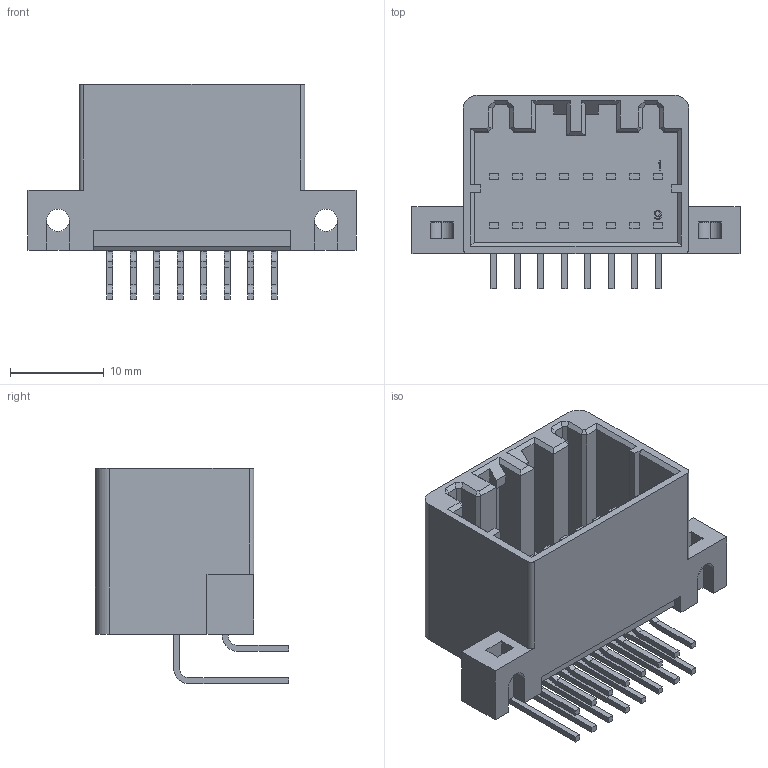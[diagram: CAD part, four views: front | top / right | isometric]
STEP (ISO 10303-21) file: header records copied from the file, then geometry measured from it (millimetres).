
FILE_DESCRIPTION((''),'2;1');
FILE_NAME('C-175615-2','2009-02-09T',('workeradm'),('Tyco Electronics Corporation'),'PRO/ENGINEER BY PARAMETRIC TECHNOLOGY CORPORATION, 2005450','PRO/ENGINEER BY PARAMETRIC TECHNOLOGY CORPORATION, 2005450','');
FILE_SCHEMA(('CONFIG_CONTROL_DESIGN', 'GEOMETRIC_VALIDATION_PROPERTIES_MIM'));
Length unit declared in the file: millimetre
Products named in the file (1): C-175615-2
Bounding box: 35 x 20.6 x 22.97 mm (x, y, z)
Volume: 3414.5 mm3; surface area: 4740.1 mm2
Topology: 1 solids, 1 shells, 416 faces, 1102 edges, 718 vertices
Faces by surface type: plane 372, cylinder 44
Entity records: 12779 total; most frequent: CARTESIAN_POINT 2237, ORIENTED_EDGE 2204, DIRECTION 2022, EDGE_CURVE 1102, VECTOR 1014, LINE 1014, VERTEX_POINT 718, AXIS2_PLACEMENT_3D 504
